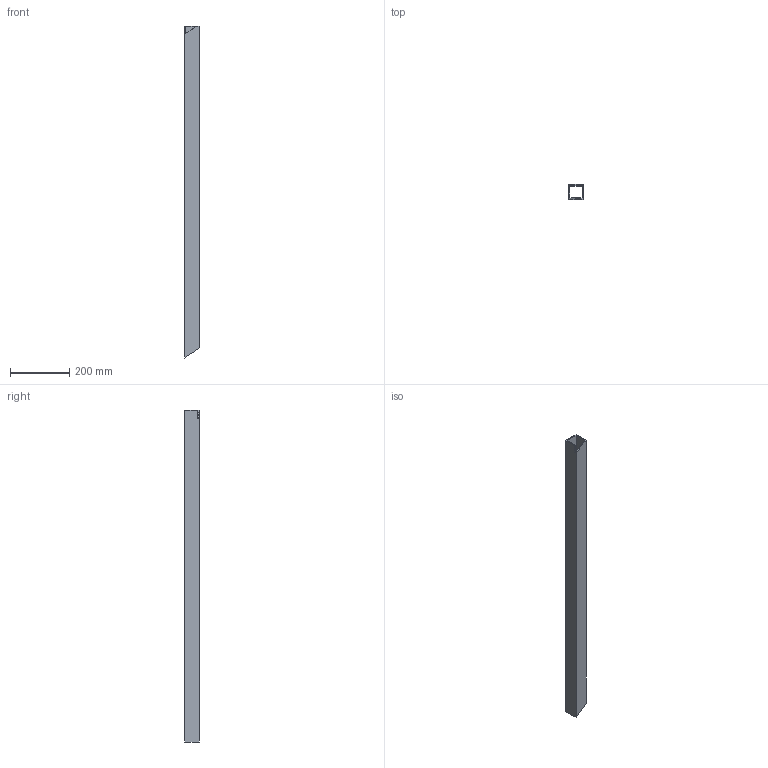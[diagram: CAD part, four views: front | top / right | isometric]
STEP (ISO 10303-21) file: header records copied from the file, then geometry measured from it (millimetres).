
FILE_DESCRIPTION(('Open CASCADE Model'),'2;1');
FILE_NAME('Open CASCADE Shape Model','2026-10-15T15:10:08',('Author'),( 'Open CASCADE'),'Open CASCADE STEP processor 8.0','Open CASCADE 8.0' ,'Unknown');
FILE_SCHEMA(('AUTOMOTIVE_DESIGN { 1 0 10303 214 1 1 1 1 }'));
Length unit declared in the file: millimetre
Products named in the file (1): SHS50x50x4_L1101268_CUT6737fa_P05_JUNTA_29 210
Bounding box: 50 x 50 x 1118.77 mm (x, y, z)
Volume: 808024.2 mm3; surface area: 405782.7 mm2
Topology: 1 solids, 1 shells, 14 faces, 39 edges, 26 vertices
Faces by surface type: plane 12, cylinder 2
Entity records: 940 total; most frequent: CARTESIAN_POINT 234, DIRECTION 99, ORIENTED_EDGE 78, PCURVE 78, DEFINITIONAL_REPRESENTATION 78, LINE 57, VECTOR 57, B_SPLINE_CURVE_WITH_KNOTS 52
